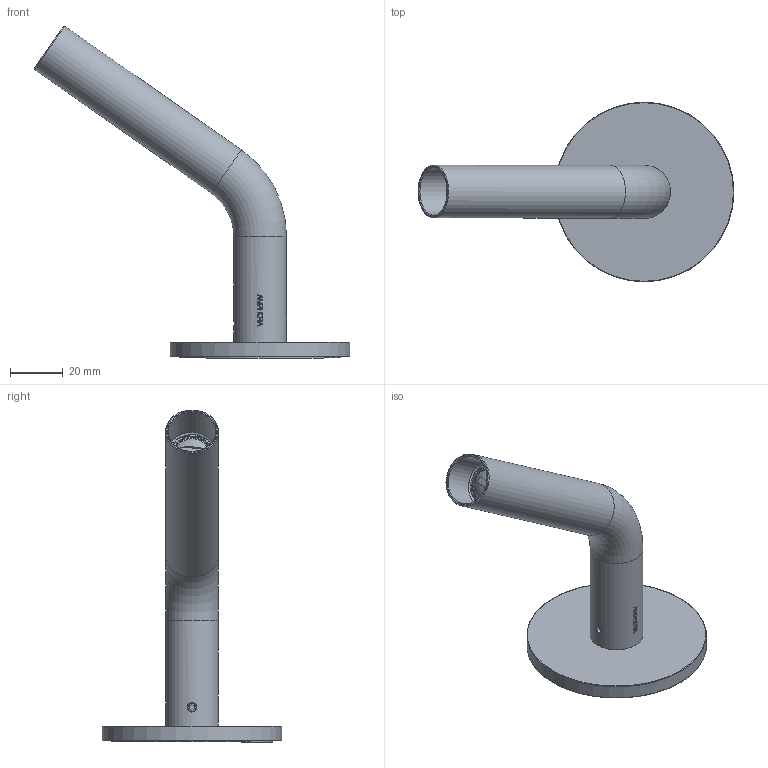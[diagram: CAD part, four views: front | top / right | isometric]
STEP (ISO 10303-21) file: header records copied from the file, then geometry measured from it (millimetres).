
FILE_DESCRIPTION(/* description */ ('Unknown'),/* implementation_level */ '2;1');
FILE_NAME(/* name */ 'RE013',/* time_stamp */ '2023-07-04T10:59:00+02:00',/* author */ ('Unknown'),/* organization */ ('Unknown'),/* preprocessor_version */ 'ST-DEVELOPER v18.102',/* originating_system */ 'Solid Edge',/* authorisation */ 'Unknown');
FILE_SCHEMA (('AUTOMOTIVE_DESIGN {1 0 10303 214 3 1 1}'));
Length unit declared in the file: millimetre
Products named in the file (11): RE013; RE013-03; OR-12.42x1.78; RE013-01; G-61-56-2; GRP-4x3; 44.3256.450; 44.3256.450-1; 44.3256.450-2; 44.3256.450-3; 44.3256.450-4
Assembly tree (11 placements, depth 3):
  RE013
    RE013-03
    OR-12.42x1.78  x2
    RE013-01
    G-61-56-2
    GRP-4x3
    44.3256.450
      44.3256.450-1
      44.3256.450-2
      44.3256.450-3
      44.3256.450-4
Bounding box: 119.58 x 68 x 125.68 mm (x, y, z)
Volume: 37723.8 mm3; surface area: 29861.8 mm2
Topology: 10 solids, 10 shells, 236 faces, 571 edges, 368 vertices
Faces by surface type: plane 129, cone 36, cylinder 33, torus 21, bspline 17
Full cylindrical faces by diameter (mm): 3.242 x1, 11.027 x2, 12.159 x1, 12.196 x1, 12.45 x1, 13.464 x1, 14.577 x1, 15 x2, 15.033 x1, 15.218 x1, 15.229 x1, 15.417 x2, 16 x1, 16.3 x1, 16.5 x2, 16.75 x1, 16.917 x1, 18 x1, 20 x2, 56 x1, 61 x1, 62.7 x1, 68 x1
Entity records: 8244 total; most frequent: CARTESIAN_POINT 1591, DIRECTION 1058, ORIENTED_EDGE 932, EDGE_CURVE 466, AXIS2_PLACEMENT_3D 407, VERTEX_POINT 346, FACE_BOUND 340, EDGE_LOOP 336
